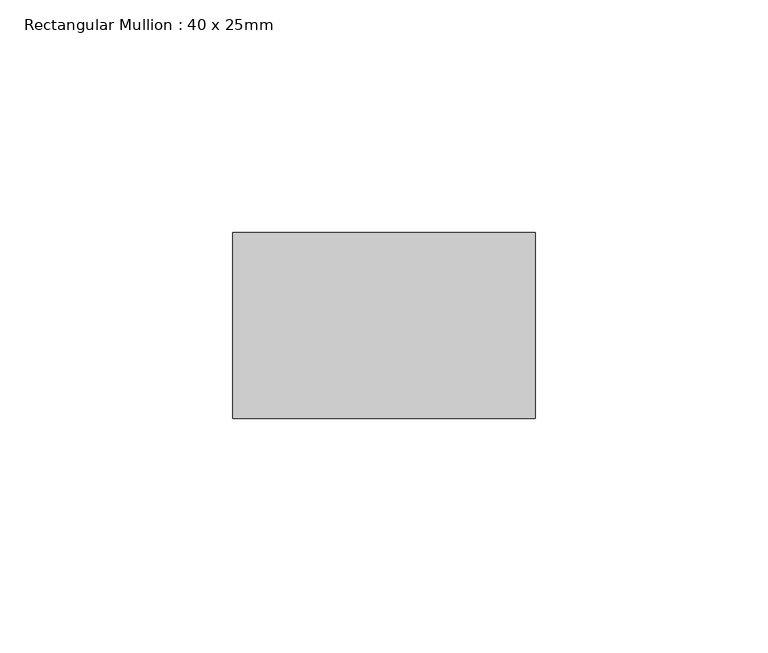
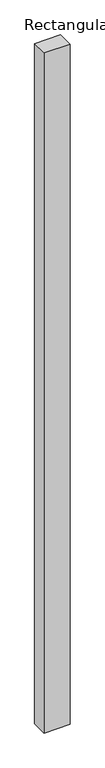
"""IFC4 building model written with IfcOpenShell, lengths in millimetres: member geometry, Rectangular Mullion : 40 x 25mm."""

from ifc_helpers import new_model, si_unit, frame, origin, place, context, project, spatial, polyline, outline, extrude, source, transform, mapped, element, save


def rectangular_mullion_40_x_25mm_decbd735(model_context):
    return source(origin(), model_context, "Body", "SweptSolid", [
        extrude(outline(polyline([(0.0, -20.0), (0.0, -60.0), (-65.0, -60.0), (-65.0, -20.0), (0.0, -20.0)])), frame((0.0, 0.0, -1793.0), z_axis=(0.0, 0.0, 1.0), x_axis=(1.0, 0.0, 0.0)), (0.0, 0.0, 1.0), 1793.0),
    ])


if __name__ == "__main__":
    model = new_model("IFC4")
    model_context = context("Model", 3, world=origin())
    ifc_project = project(units=[si_unit("LENGTHUNIT", "METRE", prefix="MILLI")], contexts=[model_context])
    site = spatial("IfcSite", under=ifc_project)
    building = spatial("IfcBuilding", under=site)
    placement = place(None, origin())
    rectangular_mullion_40_x_25mm_shape = rectangular_mullion_40_x_25mm_decbd735(model_context)
    element("IfcMember", 1, ObjectType="Rectangular Mullion : 40 x 25mm", at=placement, inside=building, context=model_context, shape_type="MappedRepresentation", body=[
        mapped(rectangular_mullion_40_x_25mm_shape, transform((0.0, 0.0, 0.0), x_axis=(1.0, 0.0, 0.0), y_axis=(0.0, 1.0, 0.0), z_axis=(0.0, 0.0, 1.0))),
    ])
    save(model, "model.ifc")
